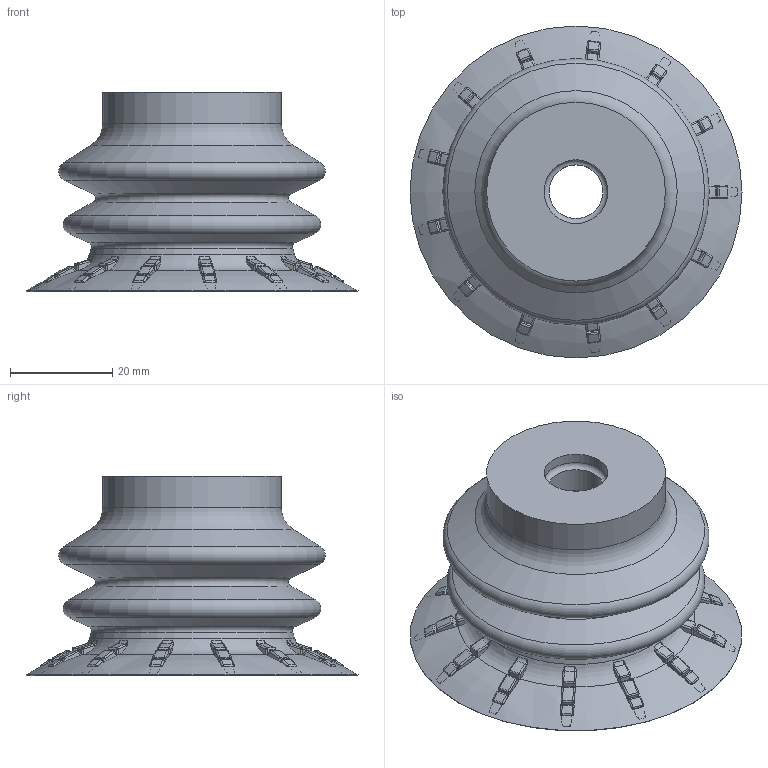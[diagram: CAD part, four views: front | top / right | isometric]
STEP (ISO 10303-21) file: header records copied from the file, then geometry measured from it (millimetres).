
FILE_DESCRIPTION (( 'STEP AP214' ), '1' );
FILE_NAME ('MB65P-3060T.STEP', '2026-05-27T13:49:25', ( '' ), ( '' ), 'SwSTEP 2.0', 'SolidWorks 2025', '' );
FILE_SCHEMA (( 'AUTOMOTIVE_DESIGN' ));
Length unit declared in the file: millimetre
Products named in the file (1): MB65P-3060T
Bounding box: 65 x 65 x 39 mm (x, y, z)
Volume: 22733.5 mm3; surface area: 21134 mm2
Topology: 1 solids, 1 shells, 1960 faces, 4619 edges, 2664 vertices
Faces by surface type: bspline 812, plane 291, cylinder 250, torus 250, sphere 236, cone 121
Full cylindrical faces by diameter (mm): 10.5 x1, 12.5 x1, 14 x1, 21 x1, 30 x1, 31 x1, 35 x1, 36 x1
Entity records: 70297 total; most frequent: CARTESIAN_POINT 32231, ORIENTED_EDGE 9082, DIRECTION 6524, EDGE_CURVE 4541, AXIS2_PLACEMENT_3D 3021, VERTEX_POINT 2652, B_SPLINE_CURVE_WITH_KNOTS 2135, EDGE_LOOP 2031
